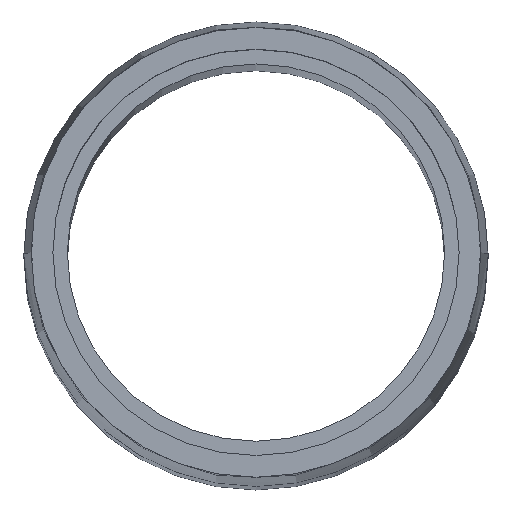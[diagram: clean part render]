
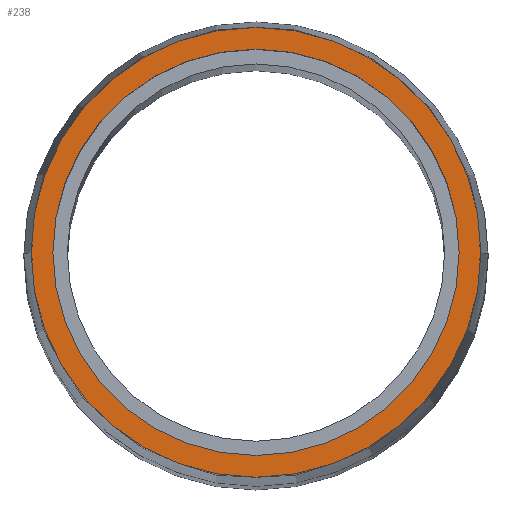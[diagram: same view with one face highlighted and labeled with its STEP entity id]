
A CAD part, top view. The second image highlights one B-rep face of the part: STEP entity #238.
In plain terms, the highlighted planar face has unit normal (0, 0, 1).
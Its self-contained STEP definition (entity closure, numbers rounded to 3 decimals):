
#12 = DIRECTION ( 'NONE',  ( 0., 0., 1. ) ) ;
#28 = CIRCLE ( 'NONE', #302, 14. ) ;
#44 = CIRCLE ( 'NONE', #214, 15.5 ) ;
#48 = ORIENTED_EDGE ( 'NONE', *, *, #300, .T. ) ;
#75 = CARTESIAN_POINT ( 'NONE',  ( 0., 0., 145. ) ) ;
#79 = AXIS2_PLACEMENT_3D ( 'NONE', #349, #167, #130 ) ;
#88 = ORIENTED_EDGE ( 'NONE', *, *, #184, .F. ) ;
#102 = EDGE_CURVE ( 'NONE', #191, #434, #28, .T. ) ;
#109 = EDGE_CURVE ( 'NONE', #347, #209, #44, .T. ) ;
#115 = CARTESIAN_POINT ( 'NONE',  ( 0., 0., 145. ) ) ;
#126 = DIRECTION ( 'NONE',  ( 1., 0., 0. ) ) ;
#130 = DIRECTION ( 'NONE',  ( 1., 0., 0. ) ) ;
#138 = DIRECTION ( 'NONE',  ( 0., 0., 1. ) ) ;
#139 = DIRECTION ( 'NONE',  ( 1., 0., 0. ) ) ;
#167 = DIRECTION ( 'NONE',  ( 0., 0., 1. ) ) ;
#170 = CARTESIAN_POINT ( 'NONE',  ( 0., 0., 145. ) ) ;
#173 = AXIS2_PLACEMENT_3D ( 'NONE', #451, #12, #126 ) ;
#174 = CARTESIAN_POINT ( 'NONE',  ( 15.5, 0., 145. ) ) ;
#184 = EDGE_CURVE ( 'NONE', #434, #191, #460, .T. ) ;
#188 = DIRECTION ( 'NONE',  ( 0., 0., 1. ) ) ;
#191 = VERTEX_POINT ( 'NONE', #270 ) ;
#202 = PLANE ( 'NONE',  #173 ) ;
#209 = VERTEX_POINT ( 'NONE', #417 ) ;
#214 = AXIS2_PLACEMENT_3D ( 'NONE', #115, #188, #473 ) ;
#216 = FACE_BOUND ( 'NONE', #457, .T. ) ;
#238 = ADVANCED_FACE ( 'NONE', ( #216, #324 ), #202, .T. ) ;
#264 = ORIENTED_EDGE ( 'NONE', *, *, #102, .F. ) ;
#270 = CARTESIAN_POINT ( 'NONE',  ( -14., 0., 145. ) ) ;
#279 = AXIS2_PLACEMENT_3D ( 'NONE', #170, #138, #139 ) ;
#300 = EDGE_CURVE ( 'NONE', #209, #347, #304, .T. ) ;
#302 = AXIS2_PLACEMENT_3D ( 'NONE', #75, #398, #334 ) ;
#304 = CIRCLE ( 'NONE', #279, 15.5 ) ;
#318 = ORIENTED_EDGE ( 'NONE', *, *, #109, .T. ) ;
#322 = EDGE_LOOP ( 'NONE', ( #48, #318 ) ) ;
#324 = FACE_OUTER_BOUND ( 'NONE', #322, .T. ) ;
#334 = DIRECTION ( 'NONE',  ( 1., 0., 0. ) ) ;
#347 = VERTEX_POINT ( 'NONE', #174 ) ;
#349 = CARTESIAN_POINT ( 'NONE',  ( 0., 0., 145. ) ) ;
#398 = DIRECTION ( 'NONE',  ( 0., 0., 1. ) ) ;
#417 = CARTESIAN_POINT ( 'NONE',  ( -15.5, 0., 145. ) ) ;
#434 = VERTEX_POINT ( 'NONE', #461 ) ;
#451 = CARTESIAN_POINT ( 'NONE',  ( 0., 0., 145. ) ) ;
#457 = EDGE_LOOP ( 'NONE', ( #88, #264 ) ) ;
#460 = CIRCLE ( 'NONE', #79, 14. ) ;
#461 = CARTESIAN_POINT ( 'NONE',  ( 14., 0., 145. ) ) ;
#473 = DIRECTION ( 'NONE',  ( 1., 0., 0. ) ) ;
